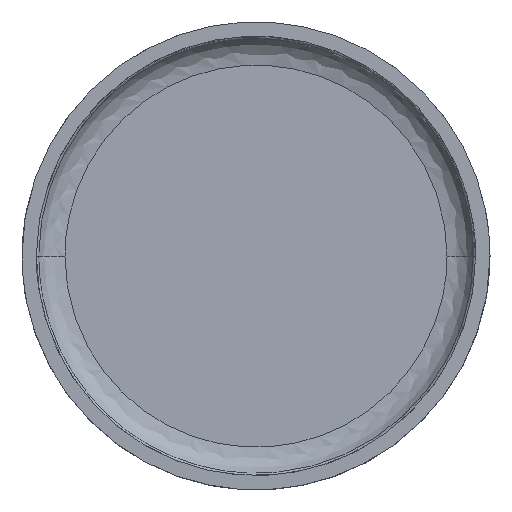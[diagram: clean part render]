
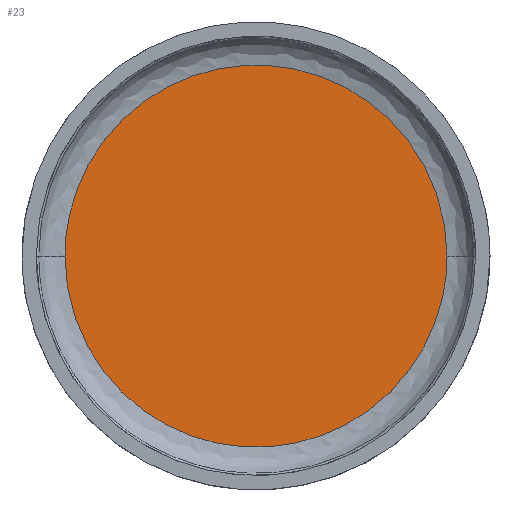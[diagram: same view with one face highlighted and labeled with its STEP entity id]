
A CAD part, top view. The second image highlights one B-rep face of the part: STEP entity #23.
In plain terms, the highlighted planar face has unit normal (0, 0, 1).
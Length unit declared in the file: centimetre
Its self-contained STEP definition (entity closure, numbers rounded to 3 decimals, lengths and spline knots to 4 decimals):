
#23=ADVANCED_FACE('',(#40),#216,.T.);
#40=FACE_OUTER_BOUND('',#58,.T.);
#58=EDGE_LOOP('',(#94,#95));
#94=ORIENTED_EDGE('',*,*,#150,.T.);
#95=ORIENTED_EDGE('',*,*,#154,.T.);
#150=EDGE_CURVE('',#206,#207,#184,.T.);
#154=EDGE_CURVE('',#207,#206,#188,.T.);
#184=(
BOUNDED_CURVE()
B_SPLINE_CURVE(2,(#1162,#1163,#1164,#1165,#1166),.UNSPECIFIED.,.F.,.F.)
B_SPLINE_CURVE_WITH_KNOTS((3,2,3),(0.,6.283,12.5661),
 .UNSPECIFIED.)
CURVE()
GEOMETRIC_REPRESENTATION_ITEM()
RATIONAL_B_SPLINE_CURVE((1.,0.707,1.,0.707,1.))
REPRESENTATION_ITEM('')
);
#188=(
BOUNDED_CURVE()
B_SPLINE_CURVE(2,(#1180,#1181,#1182,#1183,#1184),.UNSPECIFIED.,.F.,.F.)
B_SPLINE_CURVE_WITH_KNOTS((3,2,3),(12.5661,18.8491,25.1321),
 .UNSPECIFIED.)
CURVE()
GEOMETRIC_REPRESENTATION_ITEM()
RATIONAL_B_SPLINE_CURVE((1.,0.707,1.,0.707,1.))
REPRESENTATION_ITEM('')
);
#206=VERTEX_POINT('',#1008);
#207=VERTEX_POINT('',#1009);
#216=PLANE('',#253);
#253=AXIS2_PLACEMENT_3D('',#631,#259,$);
#259=DIRECTION('',(0.,0.,1.));
#631=CARTESIAN_POINT('',(-4.,-4.,0.3));
#1008=CARTESIAN_POINT('',(4.,0.,0.3));
#1009=CARTESIAN_POINT('',(-4.,0.,0.3));
#1162=CARTESIAN_POINT('',(4.,0.,0.3));
#1163=CARTESIAN_POINT('',(4.,4.,0.3));
#1164=CARTESIAN_POINT('',(0.,4.,0.3));
#1165=CARTESIAN_POINT('',(-4.,4.,0.3));
#1166=CARTESIAN_POINT('',(-4.,0.,0.3));
#1180=CARTESIAN_POINT('',(-4.,0.,0.3));
#1181=CARTESIAN_POINT('',(-4.,-4.,0.3));
#1182=CARTESIAN_POINT('',(0.,-4.,0.3));
#1183=CARTESIAN_POINT('',(4.,-4.,0.3));
#1184=CARTESIAN_POINT('',(4.,0.,0.3));
